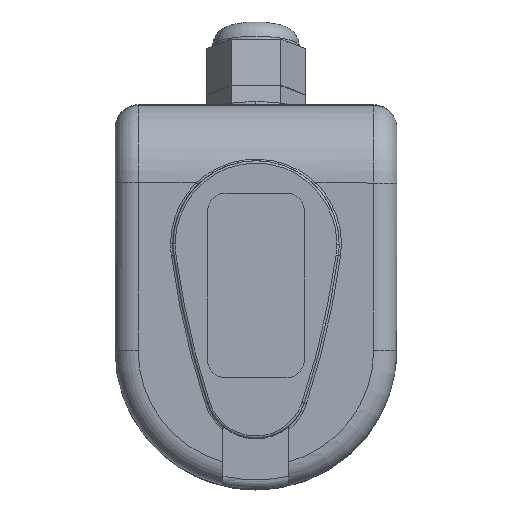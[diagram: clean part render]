
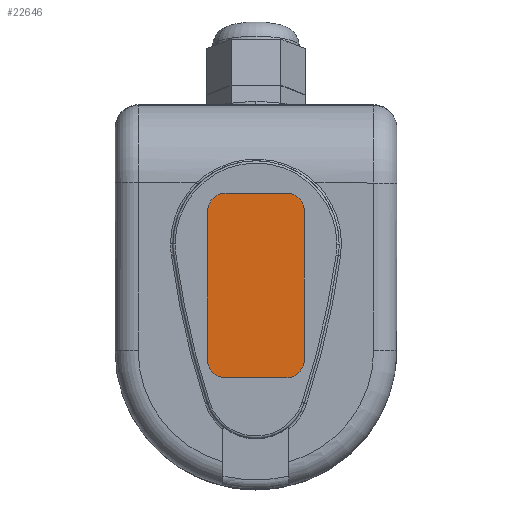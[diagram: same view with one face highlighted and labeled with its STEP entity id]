
A CAD part, front view. The second image highlights one B-rep face of the part: STEP entity #22646.
In plain terms, the highlighted planar face has unit normal (0, -1, 0) as drawn and (1, 0, 0) by its records, which use the part's own axes.
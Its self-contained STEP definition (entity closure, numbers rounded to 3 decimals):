
#328 = CARTESIAN_POINT ( 'NONE',  ( 15.7, 19., -37. ) ) ;
#719 = EDGE_CURVE ( 'NONE', #9911, #19954, #2307, .T. ) ;
#949 = DIRECTION ( 'NONE',  ( -1., 0., 0. ) ) ;
#1028 = EDGE_CURVE ( 'NONE', #20367, #9911, #17210, .T. ) ;
#1099 = EDGE_CURVE ( 'NONE', #8388, #20367, #16104, .T. ) ;
#1162 = CARTESIAN_POINT ( 'NONE',  ( 15.7, 55., -20. ) ) ;
#1321 = DIRECTION ( 'NONE',  ( 1., 0., 0. ) ) ;
#1325 = CARTESIAN_POINT ( 'NONE',  ( 15.7, 59., -24. ) ) ;
#1415 = ORIENTED_EDGE ( 'NONE', *, *, #2193, .T. ) ;
#1464 = EDGE_CURVE ( 'NONE', #10578, #8388, #12122, .T. ) ;
#1628 = EDGE_CURVE ( 'NONE', #23051, #10578, #19411, .T. ) ;
#1917 = EDGE_CURVE ( 'NONE', #16243, #23051, #19674, .T. ) ;
#2193 = EDGE_CURVE ( 'NONE', #19555, #16243, #13236, .T. ) ;
#2307 = CIRCLE ( 'NONE', #13443, 4. ) ;
#2336 = EDGE_CURVE ( 'NONE', #19954, #19555, #15778, .T. ) ;
#2404 = CARTESIAN_POINT ( 'NONE',  ( 15.7, 55., -20. ) ) ;
#2522 = CARTESIAN_POINT ( 'NONE',  ( 15.7, 23., -24. ) ) ;
#2727 = CARTESIAN_POINT ( 'NONE',  ( 15.7, 59., -37. ) ) ;
#4317 = DIRECTION ( 'NONE',  ( 0., 0., -1. ) ) ;
#4723 = ORIENTED_EDGE ( 'NONE', *, *, #1028, .T. ) ;
#5090 = DIRECTION ( 'NONE',  ( 1., 0., 0. ) ) ;
#5172 = ORIENTED_EDGE ( 'NONE', *, *, #719, .T. ) ;
#5992 = AXIS2_PLACEMENT_3D ( 'NONE', #17055, #949, #13493 ) ;
#6200 = VECTOR ( 'NONE', #18483, 1000. ) ;
#6272 = PLANE ( 'NONE',  #5992 ) ;
#7347 = VECTOR ( 'NONE', #13008, 1000. ) ;
#7537 = ORIENTED_EDGE ( 'NONE', *, *, #1917, .T. ) ;
#7879 = VECTOR ( 'NONE', #12067, 1000. ) ;
#8188 = ORIENTED_EDGE ( 'NONE', *, *, #1099, .T. ) ;
#8388 = VERTEX_POINT ( 'NONE', #19033 ) ;
#8508 = CARTESIAN_POINT ( 'NONE',  ( 15.7, 19., -24. ) ) ;
#8530 = CARTESIAN_POINT ( 'NONE',  ( 15.7, 19., -24. ) ) ;
#9708 = DIRECTION ( 'NONE',  ( 1., 0., 0. ) ) ;
#9714 = AXIS2_PLACEMENT_3D ( 'NONE', #2522, #15070, #4317 ) ;
#9911 = VERTEX_POINT ( 'NONE', #14414 ) ;
#10578 = VERTEX_POINT ( 'NONE', #13982 ) ;
#10718 = VECTOR ( 'NONE', #19243, 1000. ) ;
#11210 = CARTESIAN_POINT ( 'NONE',  ( 15.7, 55., -41. ) ) ;
#11507 = AXIS2_PLACEMENT_3D ( 'NONE', #20418, #9708, #22211 ) ;
#12059 = CARTESIAN_POINT ( 'NONE',  ( 15.7, 55., -24. ) ) ;
#12067 = DIRECTION ( 'NONE',  ( 0., 0., 1. ) ) ;
#12122 = LINE ( 'NONE', #11210, #7347 ) ;
#12393 = AXIS2_PLACEMENT_3D ( 'NONE', #15872, #5090, #17666 ) ;
#13008 = DIRECTION ( 'NONE',  ( 0., 1., 0. ) ) ;
#13236 = CIRCLE ( 'NONE', #9714, 4. ) ;
#13443 = AXIS2_PLACEMENT_3D ( 'NONE', #12059, #1321, #13869 ) ;
#13493 = DIRECTION ( 'NONE',  ( 0., 0., 1. ) ) ;
#13869 = DIRECTION ( 'NONE',  ( 0., 0., 1. ) ) ;
#13982 = CARTESIAN_POINT ( 'NONE',  ( 15.7, 23., -41. ) ) ;
#14414 = CARTESIAN_POINT ( 'NONE',  ( 15.7, 59., -24. ) ) ;
#15070 = DIRECTION ( 'NONE',  ( 1., 0., 0. ) ) ;
#15613 = ORIENTED_EDGE ( 'NONE', *, *, #1628, .T. ) ;
#15778 = LINE ( 'NONE', #2404, #6200 ) ;
#15872 = CARTESIAN_POINT ( 'NONE',  ( 15.7, 55., -37. ) ) ;
#16104 = CIRCLE ( 'NONE', #12393, 4. ) ;
#16206 = CARTESIAN_POINT ( 'NONE',  ( 15.7, 23., -20. ) ) ;
#16243 = VERTEX_POINT ( 'NONE', #8530 ) ;
#17055 = CARTESIAN_POINT ( 'NONE',  ( 15.7, 55., -24. ) ) ;
#17210 = LINE ( 'NONE', #1325, #7879 ) ;
#17535 = ORIENTED_EDGE ( 'NONE', *, *, #2336, .T. ) ;
#17666 = DIRECTION ( 'NONE',  ( 0., 0., 1. ) ) ;
#18483 = DIRECTION ( 'NONE',  ( 0., -1., 0. ) ) ;
#18741 = ORIENTED_EDGE ( 'NONE', *, *, #1464, .T. ) ;
#19033 = CARTESIAN_POINT ( 'NONE',  ( 15.7, 55., -41. ) ) ;
#19243 = DIRECTION ( 'NONE',  ( 0., 0., -1. ) ) ;
#19411 = CIRCLE ( 'NONE', #11507, 4. ) ;
#19555 = VERTEX_POINT ( 'NONE', #16206 ) ;
#19674 = LINE ( 'NONE', #8508, #10718 ) ;
#19954 = VERTEX_POINT ( 'NONE', #1162 ) ;
#20150 = FACE_OUTER_BOUND ( 'NONE', #21527, .T. ) ;
#20367 = VERTEX_POINT ( 'NONE', #2727 ) ;
#20418 = CARTESIAN_POINT ( 'NONE',  ( 15.7, 23., -37. ) ) ;
#21527 = EDGE_LOOP ( 'NONE', ( #5172, #17535, #1415, #7537, #15613, #18741, #8188, #4723 ) ) ;
#22211 = DIRECTION ( 'NONE',  ( 0., 0., 1. ) ) ;
#22646 = ADVANCED_FACE ( 'NONE', ( #20150 ), #6272, .F. ) ;
#23051 = VERTEX_POINT ( 'NONE', #328 ) ;
